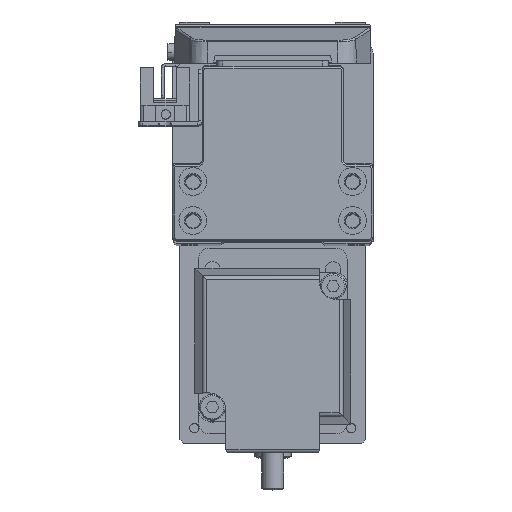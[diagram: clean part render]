
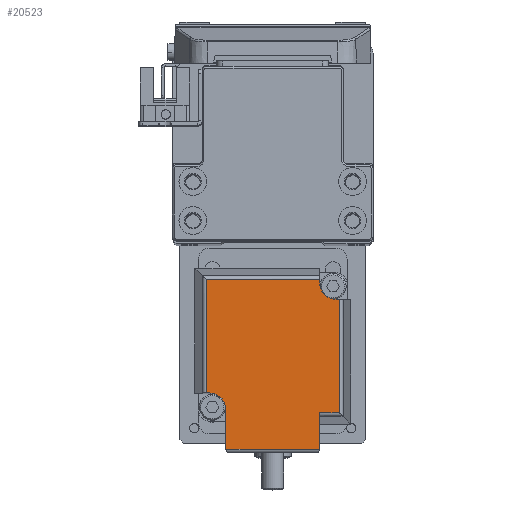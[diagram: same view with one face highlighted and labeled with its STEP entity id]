
A CAD part, top view. The second image highlights one B-rep face of the part: STEP entity #20523.
In plain terms, the highlighted planar face has unit normal (0, 0, 1) as drawn and (0, 1, 0) by its records, which use the part's own axes.
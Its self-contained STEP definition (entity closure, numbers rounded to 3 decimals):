
#104 = ORIENTED_EDGE ( 'NONE', *, *, #19474, .F. ) ;
#689 = EDGE_CURVE ( 'NONE', #12951, #39179, #9629, .T. ) ;
#1044 = LINE ( 'NONE', #32866, #30477 ) ;
#1603 = EDGE_CURVE ( 'NONE', #17411, #40834, #2616, .T. ) ;
#1759 = DIRECTION ( 'NONE',  ( 0., 0., 1. ) ) ;
#1775 = ORIENTED_EDGE ( 'NONE', *, *, #22855, .F. ) ;
#1824 = AXIS2_PLACEMENT_3D ( 'NONE', #20449, #16714, #13274 ) ;
#2277 = CIRCLE ( 'NONE', #1824, 4.5 ) ;
#2616 = LINE ( 'NONE', #34710, #11699 ) ;
#2832 = EDGE_CURVE ( 'NONE', #12302, #31444, #29813, .T. ) ;
#2893 = CARTESIAN_POINT ( 'NONE',  ( -12.6, 100.6, 25. ) ) ;
#3734 = CARTESIAN_POINT ( 'NONE',  ( 12.6, 100.6, 17.929 ) ) ;
#4556 = VECTOR ( 'NONE', #17966, 1000. ) ;
#5104 = CARTESIAN_POINT ( 'NONE',  ( 17.929, 100.6, -17.929 ) ) ;
#5159 = ORIENTED_EDGE ( 'NONE', *, *, #6048, .F. ) ;
#5433 = LINE ( 'NONE', #2893, #26852 ) ;
#6048 = EDGE_CURVE ( 'NONE', #39179, #26161, #5433, .T. ) ;
#6930 = ORIENTED_EDGE ( 'NONE', *, *, #32252, .F. ) ;
#7249 = EDGE_CURVE ( 'NONE', #40834, #12951, #7694, .T. ) ;
#7694 = LINE ( 'NONE', #37035, #26342 ) ;
#7729 = DIRECTION ( 'NONE',  ( 0., 0., 1. ) ) ;
#8126 = CARTESIAN_POINT ( 'NONE',  ( 12.6, 100.6, 17.1 ) ) ;
#8500 = CARTESIAN_POINT ( 'NONE',  ( -17.929, 100.6, -12.6 ) ) ;
#8702 = ORIENTED_EDGE ( 'NONE', *, *, #38903, .F. ) ;
#8820 = VERTEX_POINT ( 'NONE', #44375 ) ;
#9370 = CARTESIAN_POINT ( 'NONE',  ( 17.929, 100.6, -12.6 ) ) ;
#9629 = CIRCLE ( 'NONE', #26946, 4.5 ) ;
#10413 = VERTEX_POINT ( 'NONE', #3734 ) ;
#11617 = VECTOR ( 'NONE', #1759, 1000. ) ;
#11699 = VECTOR ( 'NONE', #41594, 1000. ) ;
#11903 = ORIENTED_EDGE ( 'NONE', *, *, #689, .F. ) ;
#12302 = VERTEX_POINT ( 'NONE', #40442 ) ;
#12951 = VERTEX_POINT ( 'NONE', #37048 ) ;
#13274 = DIRECTION ( 'NONE',  ( 0., 0., 1. ) ) ;
#13556 = VECTOR ( 'NONE', #15245, 1000. ) ;
#13958 = LINE ( 'NONE', #44023, #43425 ) ;
#13979 = AXIS2_PLACEMENT_3D ( 'NONE', #37394, #16563, #33629 ) ;
#14932 = ORIENTED_EDGE ( 'NONE', *, *, #18703, .F. ) ;
#15245 = DIRECTION ( 'NONE',  ( 1., 0., 0. ) ) ;
#15345 = CARTESIAN_POINT ( 'NONE',  ( 17.929, 100.6, 25. ) ) ;
#15494 = ORIENTED_EDGE ( 'NONE', *, *, #1603, .F. ) ;
#16563 = DIRECTION ( 'NONE',  ( 0., -1., 0. ) ) ;
#16714 = DIRECTION ( 'NONE',  ( 0., -1., 0. ) ) ;
#16896 = LINE ( 'NONE', #34742, #4556 ) ;
#17299 = LINE ( 'NONE', #5104, #13556 ) ;
#17411 = VERTEX_POINT ( 'NONE', #20179 ) ;
#17966 = DIRECTION ( 'NONE',  ( 1., 0., 0. ) ) ;
#18044 = CARTESIAN_POINT ( 'NONE',  ( 27.7, 100.6, 25. ) ) ;
#18703 = EDGE_CURVE ( 'NONE', #38622, #21142, #39128, .T. ) ;
#19474 = EDGE_CURVE ( 'NONE', #37529, #10413, #1044, .T. ) ;
#19956 = DIRECTION ( 'NONE',  ( 1., 0., 0. ) ) ;
#20075 = DIRECTION ( 'NONE',  ( -1., 0., 0. ) ) ;
#20179 = CARTESIAN_POINT ( 'NONE',  ( -17.929, 100.6, 17.929 ) ) ;
#20449 = CARTESIAN_POINT ( 'NONE',  ( 17.1, 100.6, 17.1 ) ) ;
#20523 = ADVANCED_FACE ( 'NONE', ( #37397 ), #37093, .F. ) ;
#20543 = ORIENTED_EDGE ( 'NONE', *, *, #7249, .F. ) ;
#20864 = ORIENTED_EDGE ( 'NONE', *, *, #24852, .T. ) ;
#21142 = VERTEX_POINT ( 'NONE', #40919 ) ;
#22855 = EDGE_CURVE ( 'NONE', #31444, #38622, #16896, .T. ) ;
#23044 = DIRECTION ( 'NONE',  ( 0., 1., 0. ) ) ;
#23597 = VECTOR ( 'NONE', #7729, 1000. ) ;
#24651 = CARTESIAN_POINT ( 'NONE',  ( -12.6, 100.6, -17.929 ) ) ;
#24852 = EDGE_CURVE ( 'NONE', #37529, #8820, #2277, .T. ) ;
#25898 = ORIENTED_EDGE ( 'NONE', *, *, #2832, .F. ) ;
#26161 = VERTEX_POINT ( 'NONE', #24651 ) ;
#26342 = VECTOR ( 'NONE', #19956, 1000. ) ;
#26758 = DIRECTION ( 'NONE',  ( 0., 0., 1. ) ) ;
#26852 = VECTOR ( 'NONE', #44207, 1000. ) ;
#26946 = AXIS2_PLACEMENT_3D ( 'NONE', #29755, #23044, #26758 ) ;
#28147 = CARTESIAN_POINT ( 'NONE',  ( 27.7, 100.6, -12.6 ) ) ;
#29755 = CARTESIAN_POINT ( 'NONE',  ( -17.1, 100.6, -17.1 ) ) ;
#29813 = LINE ( 'NONE', #15345, #11617 ) ;
#29832 = LINE ( 'NONE', #40118, #43778 ) ;
#30477 = VECTOR ( 'NONE', #39615, 1000. ) ;
#30965 = DIRECTION ( 'NONE',  ( 1., 0., 0. ) ) ;
#31444 = VERTEX_POINT ( 'NONE', #9370 ) ;
#32252 = EDGE_CURVE ( 'NONE', #26161, #12302, #17299, .T. ) ;
#32866 = CARTESIAN_POINT ( 'NONE',  ( 12.6, 100.6, 25. ) ) ;
#33629 = DIRECTION ( 'NONE',  ( 0., 0., -1. ) ) ;
#34710 = CARTESIAN_POINT ( 'NONE',  ( -17.929, 100.6, 25. ) ) ;
#34742 = CARTESIAN_POINT ( 'NONE',  ( 17.929, 100.6, -12.6 ) ) ;
#36062 = EDGE_LOOP ( 'NONE', ( #40022, #14932, #1775, #25898, #6930, #5159, #11903, #20543, #15494, #8702, #104, #20864 ) ) ;
#37035 = CARTESIAN_POINT ( 'NONE',  ( 17.929, 100.6, -12.6 ) ) ;
#37048 = CARTESIAN_POINT ( 'NONE',  ( -17.1, 100.6, -12.6 ) ) ;
#37093 = PLANE ( 'NONE',  #13979 ) ;
#37394 = CARTESIAN_POINT ( 'NONE',  ( 17.929, 100.6, 25. ) ) ;
#37397 = FACE_OUTER_BOUND ( 'NONE', #36062, .T. ) ;
#37529 = VERTEX_POINT ( 'NONE', #8126 ) ;
#38622 = VERTEX_POINT ( 'NONE', #28147 ) ;
#38903 = EDGE_CURVE ( 'NONE', #10413, #17411, #13958, .T. ) ;
#39128 = LINE ( 'NONE', #18044, #23597 ) ;
#39179 = VERTEX_POINT ( 'NONE', #42193 ) ;
#39615 = DIRECTION ( 'NONE',  ( 0., 0., 1. ) ) ;
#40022 = ORIENTED_EDGE ( 'NONE', *, *, #41470, .T. ) ;
#40118 = CARTESIAN_POINT ( 'NONE',  ( 17.1, 100.6, 12.6 ) ) ;
#40442 = CARTESIAN_POINT ( 'NONE',  ( 17.929, 100.6, -17.929 ) ) ;
#40834 = VERTEX_POINT ( 'NONE', #8500 ) ;
#40919 = CARTESIAN_POINT ( 'NONE',  ( 27.7, 100.6, 12.6 ) ) ;
#41470 = EDGE_CURVE ( 'NONE', #8820, #21142, #29832, .T. ) ;
#41594 = DIRECTION ( 'NONE',  ( 0., 0., -1. ) ) ;
#42193 = CARTESIAN_POINT ( 'NONE',  ( -12.6, 100.6, -17.1 ) ) ;
#43425 = VECTOR ( 'NONE', #20075, 1000. ) ;
#43778 = VECTOR ( 'NONE', #30965, 1000. ) ;
#44023 = CARTESIAN_POINT ( 'NONE',  ( 25., 100.6, 17.929 ) ) ;
#44207 = DIRECTION ( 'NONE',  ( 0., 0., -1. ) ) ;
#44375 = CARTESIAN_POINT ( 'NONE',  ( 17.1, 100.6, 12.6 ) ) ;
